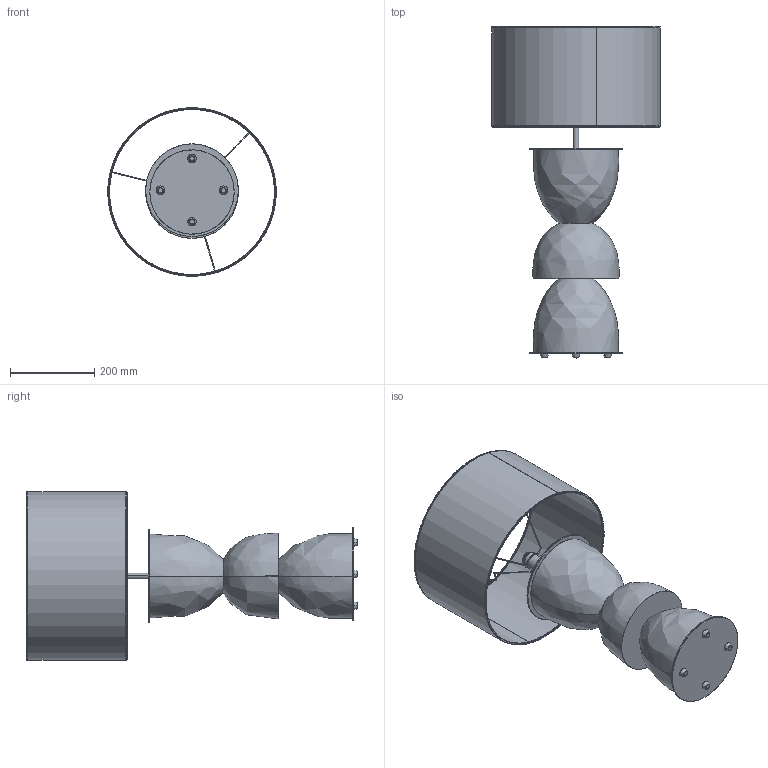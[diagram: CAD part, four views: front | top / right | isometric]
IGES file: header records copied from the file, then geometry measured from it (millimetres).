
Start section: SolidWorks IGES file using analytic representation for surfaces
Global section: file name: C:\Users\Agus\Desktop\AROMAS\PROPUESTAS ENERO 2020\nac117\NAC117.IGS; native system: SolidWorks 2018; preprocessor: SolidWorks 2018; author: Agus; date: 200406.163034; units: millimetre
Bounding box: 399.68 x 788 x 400 mm (x, y, z)
Surface area: 1188292.9 mm2 (no closed solid volume)
Topology: 0 solids, 0 shells, 200 faces, 3411 edges, 3409 vertices
Faces by surface type: revolution 113, bspline 87
